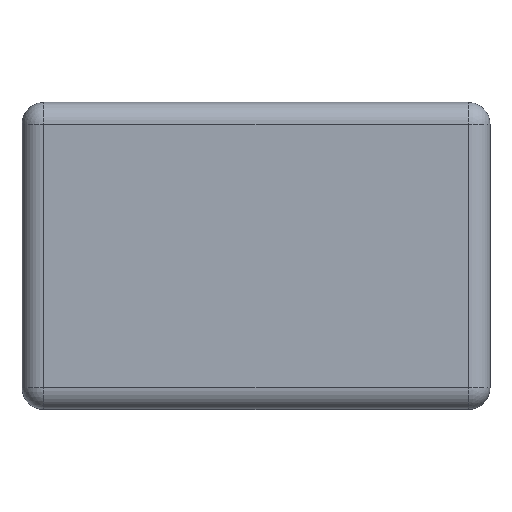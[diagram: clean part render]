
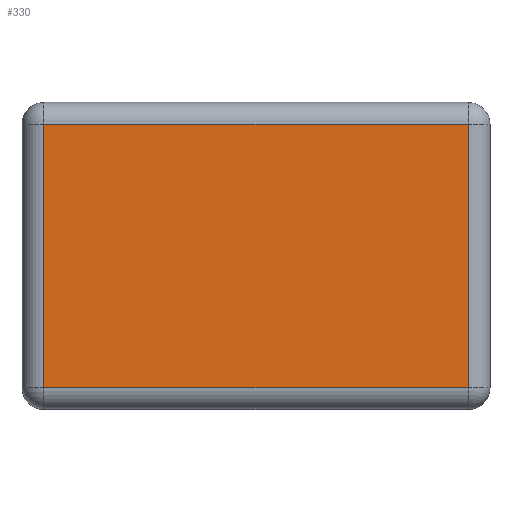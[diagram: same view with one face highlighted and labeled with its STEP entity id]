
A CAD part, top view. The second image highlights one B-rep face of the part: STEP entity #330.
In plain terms, the highlighted planar face has unit normal (0, 0, 1).
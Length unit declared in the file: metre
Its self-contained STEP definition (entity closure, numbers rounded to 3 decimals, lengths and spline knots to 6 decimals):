
#56=ORIENTED_EDGE('',*,*,#152,.T.);
#57=ORIENTED_EDGE('',*,*,#153,.T.);
#58=ORIENTED_EDGE('',*,*,#154,.T.);
#59=ORIENTED_EDGE('',*,*,#155,.T.);
#152=EDGE_CURVE('',#200,#201,#224,.F.);
#153=EDGE_CURVE('',#201,#202,#225,.F.);
#154=EDGE_CURVE('',#202,#203,#226,.T.);
#155=EDGE_CURVE('',#203,#200,#227,.T.);
#200=VERTEX_POINT('',#548);
#201=VERTEX_POINT('',#549);
#202=VERTEX_POINT('',#551);
#203=VERTEX_POINT('',#553);
#224=LINE('',#547,#248);
#225=LINE('',#550,#249);
#226=LINE('',#552,#250);
#227=LINE('',#554,#251);
#248=VECTOR('',#423,1.);
#249=VECTOR('',#424,1.);
#250=VECTOR('',#425,1.);
#251=VECTOR('',#426,1.);
#272=EDGE_LOOP('',(#56,#57,#58,#59));
#298=FACE_BOUND('',#272,.T.);
#324=PLANE('',#369);
#330=ADVANCED_FACE('',(#298),#324,.F.);
#369=AXIS2_PLACEMENT_3D('',#546,#421,#422);
#421=DIRECTION('',(0.,0.,-1.));
#422=DIRECTION('',(0.,1.,0.));
#423=DIRECTION('',(0.,-1.,0.));
#424=DIRECTION('',(1.,0.,0.));
#425=DIRECTION('',(0.,-1.,0.));
#426=DIRECTION('',(1.,0.,0.));
#546=CARTESIAN_POINT('',(0.022708,0.016067,0.015863));
#547=CARTESIAN_POINT('',(0.037208,0.016067,0.015863));
#548=CARTESIAN_POINT('',(0.037208,-0.003433,0.015863));
#549=CARTESIAN_POINT('',(0.037208,0.014567,0.015863));
#550=CARTESIAN_POINT('',(0.022708,0.014567,0.015863));
#551=CARTESIAN_POINT('',(0.008208,0.014567,0.015863));
#552=CARTESIAN_POINT('',(0.008208,-0.004933,0.015863));
#553=CARTESIAN_POINT('',(0.008208,-0.003433,0.015863));
#554=CARTESIAN_POINT('',(0.038708,-0.003433,0.015863));
